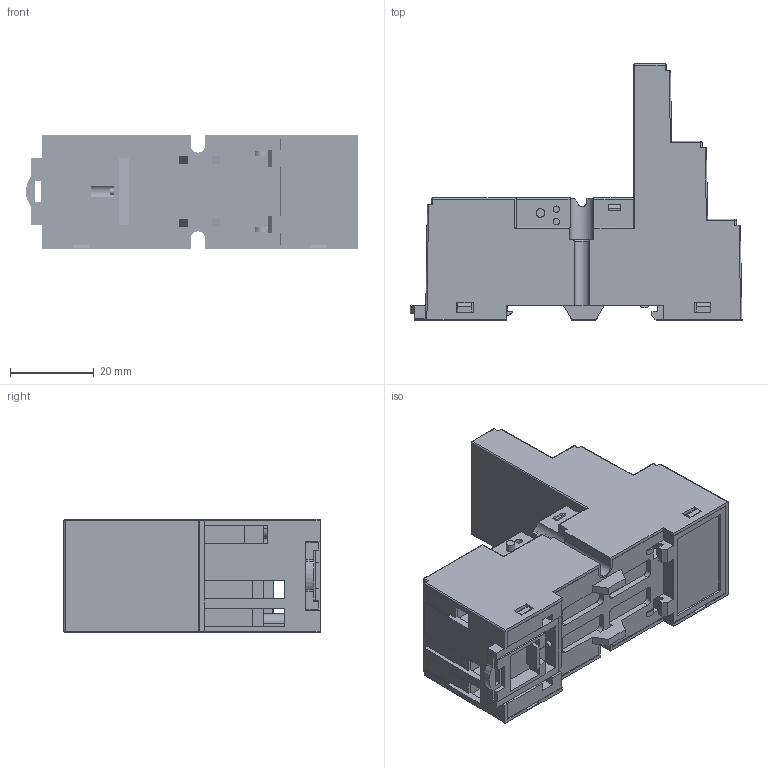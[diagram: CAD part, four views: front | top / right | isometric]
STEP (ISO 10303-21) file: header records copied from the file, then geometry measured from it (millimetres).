
FILE_DESCRIPTION(/* description */ (''),/* implementation_level */ '2;1');
FILE_NAME(/* name */ '18f-4z-c5.stp',/* time_stamp */ '2023-06-19T14:19:33+08:00',/* author */ (''),/* organization */ (''),/* preprocessor_version */ 'ST-DEVELOPER v11',/* originating_system */ 'SIEMENS UGS NX 6.0',/* authorisation */ '');
FILE_SCHEMA (('CONFIG_CONTROL_DESIGN'));
Products named in the file (1): 18f-4z-c5
Bounding box: 79.23 x 61.1 x 27.2 mm (x, y, z)
Volume: 33184.3 mm3; surface area: 37910.4 mm2
Topology: 33 solids, 33 shells, 1324 faces, 3603 edges, 2372 vertices
Faces by surface type: plane 1080, cylinder 187, bspline 45, sphere 10, torus 2
Full cylindrical faces by diameter (mm): 1.5 x5, 2 x15, 2.1 x2, 2.5 x15, 2.51 x2, 3 x15, 3.9 x1, 4.5 x1, 5.5 x15
Entity records: 80016 total; most frequent: CARTESIAN_POINT 47025, ORIENTED_EDGE 6940, DIRECTION 6295, EDGE_CURVE 3470, LINE 2833, VECTOR 2833, VERTEX_POINT 2339, AXIS2_PLACEMENT_3D 1731
